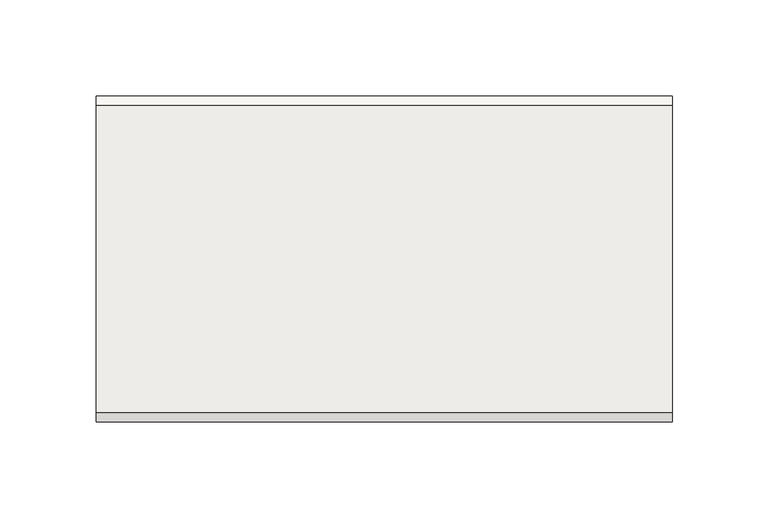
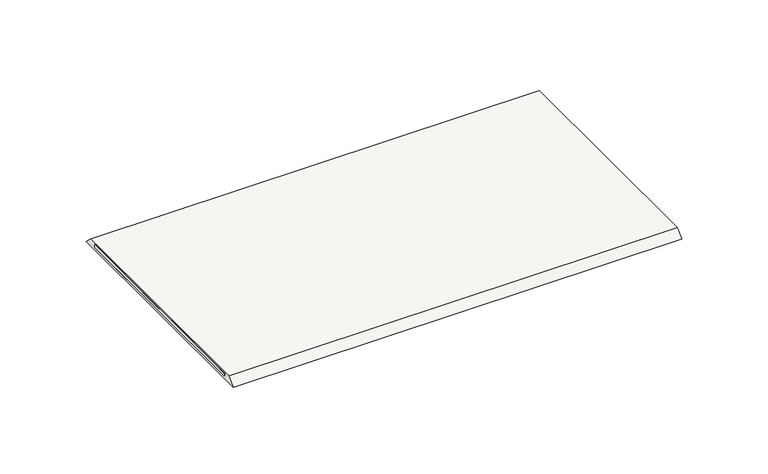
"""IFC4 building model written with IfcOpenShell, lengths in millimetres: covering geometry, Sikadur-Combiflex® SG System (Junta de construcción y grietas) : CINTA Sikadur-Combiflex® SG-20 P, ANCHO 15 cm."""

from ifc_helpers import new_model, si_unit, frame, origin, place, context, project, spatial, polyline, outline, extrude, source, transform, mapped, element, save


def covering_15a9058b(model_context):
    return source(origin(), model_context, "Body", "SweptSolid", [
        extrude(outline(polyline([(300.0, 75.0), (300.0, -75.0), (0.0, -75.0), (0.0, 75.0), (300.0, 75.0)])), frame((0.0, 0.0, 2.0), z_axis=(0.0, 0.0, 1.0), x_axis=(1.0, 0.0, 0.0)), (0.0, 0.0, 1.0), 2.0),
        extrude(outline(polyline([(80.0, 5.0), (85.0, 0.0), (-85.0, 0.0), (-80.0, 5.0), (80.0, 5.0)]), holes=[polyline([(-75.0, 4.0), (-75.0, 2.0), (75.0, 2.0), (75.0, 4.0), (-75.0, 4.0)])]), frame((0.0, 0.0, 0.0), z_axis=(1.0, 0.0, 0.0), x_axis=(0.0, 1.0, 0.0)), (0.0, 0.0, 1.0), 300.0),
    ])


if __name__ == "__main__":
    model = new_model("IFC4")
    model_context = context("Model", 3, world=origin())
    ifc_project = project(units=[si_unit("LENGTHUNIT", "METRE", prefix="MILLI")], contexts=[model_context])
    site = spatial("IfcSite", under=ifc_project)
    building = spatial("IfcBuilding", under=site)
    placement = place(None, origin())
    covering_shape = covering_15a9058b(model_context)
    element("IfcCovering", 1, ObjectType="Sikadur-Combiflex® SG System (Junta de construcción y grietas) : CINTA Sikadur-Combiflex® SG-20 P, ANCHO 15 cm", at=placement, inside=building, context=model_context, shape_type="MappedRepresentation", body=[
        mapped(covering_shape, transform((0.0, 0.0, 0.0), x_axis=(1.0, 0.0, 0.0), y_axis=(0.0, 1.0, 0.0), z_axis=(0.0, 0.0, 1.0))),
    ])
    save(model, "model.ifc")
